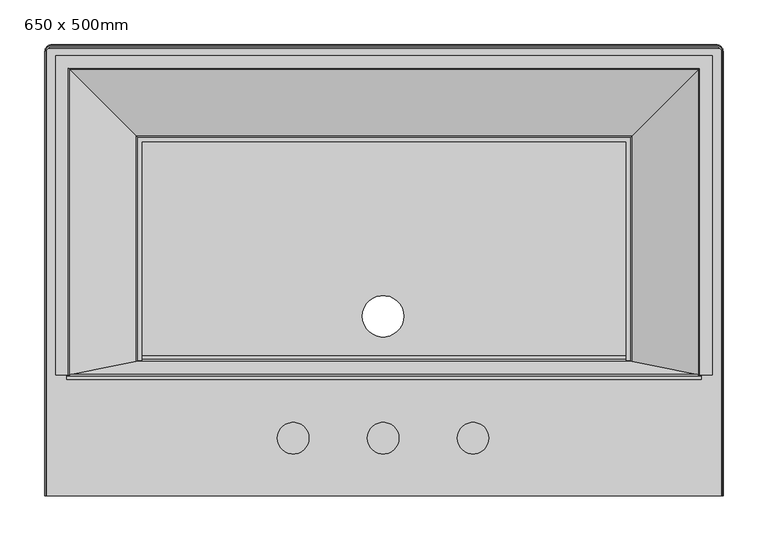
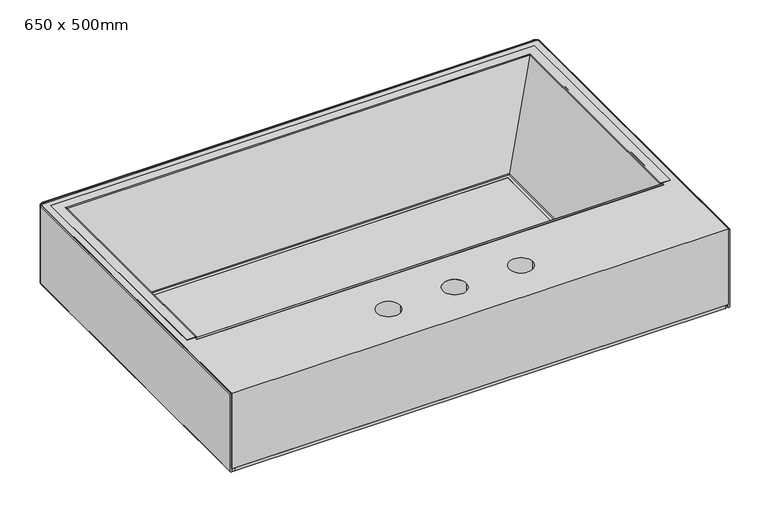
"""IFC4 building model written with IfcOpenShell, lengths in millimetres: flow terminal geometry, Umývadlo závěsné : 650 x 500mm."""

from ifc_helpers import new_model, si_unit, point, frame, frame_2d, origin, place, context, project, spatial, polyline, circle_curve, ellipse_curve, trimmed, segment, composite_curve, outline, extrude, source, transform, mapped, element, save
from ifc_brep_helpers import plane_surface, cylinder_surface, revolved_surface, advanced_brep


def flow_terminal_650_x_500mm_feced0cd(model_context):
    return source(origin(), model_context, "Body", "SolidModel", [
        advanced_brep(
        [(-238.3922513, 197.5, 870.0), (-238.3922513, 197.5, 865.0), (-226.1634933, 197.5, 865.0), (-151.1371736, 197.5, 744.95758), (-143.0390224, 197.5, 744.95758), (-143.0390224, 197.5, 750.0), (-147.2839473, 197.5, 750.0), (-148.9799451, 197.5, 750.9400041), (-222.8047502, 197.5, 869.0599959), (-224.5007481, 197.5, 870.0), (-238.3922513, 552.3610413, 870.0), (-238.3922513, 552.3610413, 865.0), (491.3298313, 552.3610413, 865.0), (491.3298313, 197.5, 865.0), (479.1010733, 197.5, 865.0), (479.1010733, 540.1322833, 865.0), (-226.1634933, 540.1322833, 865.0), (-151.1371736, 465.1059636, 744.95758), (404.0747536, 465.1059636, 744.95758), (404.0747536, 197.5, 744.95758), (395.9766024, 197.5, 744.95758), (395.9766024, 457.0078124, 744.95758), (-143.0390224, 457.0078124, 744.95758), (-143.0390224, 457.0078124, 750.0), (395.9766024, 457.0078124, 750.0), (395.9766024, 197.5, 750.0), (400.2215273, 197.5, 750.0), (400.2215273, 461.2527373, 750.0), (-147.2839473, 461.2527373, 750.0), (-148.9799451, 462.9487351, 750.9400041), (-222.8047502, 536.7735402, 869.0599959), (-224.5007481, 538.4695381, 870.0), (477.4383281, 538.4695381, 870.0), (477.4383281, 197.5, 870.0), (491.3298313, 197.5, 870.0), (491.3298313, 552.3610413, 870.0), (401.9175251, 462.9487351, 750.9400041), (475.7423302, 536.7735402, 869.0599959), (475.7423302, 197.5, 869.0599959), (401.9175251, 197.5, 750.9400041)],
        [
            (0, 1),
            (1, 2),
            (2, 3),
            (3, 4),
            (4, 5),
            (5, 6),
            (6, 7, circle_curve(frame((-147.2839473, 197.5, 752.0), z_axis=(0.0, 1.0, 0.0), x_axis=(-1.0, 0.0, 0.0)), 2.0)),
            (7, 8),
            (8, 9, circle_curve(frame((-224.5007481, 197.5, 868.0), z_axis=(0.0, -1.0, 0.0), x_axis=(-1.0, 0.0, 0.0)), 2.0)),
            (9, 0),
            (0, 10),
            (10, 11),
            (11, 1),
            (11, 12),
            (12, 13),
            (13, 14),
            (14, 15),
            (15, 16),
            (16, 2),
            (16, 17),
            (17, 3),
            (17, 18),
            (18, 19),
            (19, 20),
            (20, 21),
            (21, 22),
            (22, 4),
            (22, 23),
            (23, 5),
            (23, 24),
            (24, 25),
            (25, 26),
            (26, 27),
            (27, 28),
            (28, 6),
            (28, 29, ellipse_curve(frame((-147.2839473, 461.2527373, 752.0), z_axis=(0.7071067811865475, 0.7071067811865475, 0.0), x_axis=(-0.7071067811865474, 0.7071067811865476, 0.0)), 2.8284271, 2.0)),
            (29, 7),
            (29, 30),
            (30, 8),
            (30, 31, ellipse_curve(frame((-224.5007481, 538.4695381, 868.0), z_axis=(-0.7071067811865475, -0.7071067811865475, 0.0), x_axis=(0.7071067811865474, -0.7071067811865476, 0.0)), 2.8284271, 2.0)),
            (31, 9),
            (31, 32),
            (32, 33),
            (33, 34),
            (34, 35),
            (35, 10),
            (35, 12),
            (15, 18),
            (21, 24),
            (27, 36, ellipse_curve(frame((400.2215273, 461.2527373, 752.0), z_axis=(0.7071067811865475, -0.7071067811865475, 0.0), x_axis=(0.7071067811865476, 0.7071067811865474, 0.0)), 2.8284271, 2.0)),
            (36, 29),
            (36, 37),
            (37, 30),
            (37, 32, ellipse_curve(frame((477.4383281, 538.4695381, 868.0), z_axis=(-0.7071067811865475, 0.7071067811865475, 0.0), x_axis=(-0.7071067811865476, -0.7071067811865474, 0.0)), 2.8284271, 2.0)),
            (33, 38, circle_curve(frame((477.4383281, 197.5, 868.0), z_axis=(0.0, -1.0, 0.0), x_axis=(1.0, 0.0, 0.0)), 2.0)),
            (38, 39),
            (39, 26, circle_curve(frame((400.2215273, 197.5, 752.0), z_axis=(0.0, 1.0, 0.0), x_axis=(1.0, 0.0, 0.0)), 2.0)),
            (25, 20),
            (19, 14),
            (13, 34),
            (39, 36),
            (38, 37),
        ],
        [
            plane_surface(frame((-223.53121, 197.5, 750.0), z_axis=(0.0, -1.0, 0.0), x_axis=(0.0, 0.0, 1.0))),
            plane_surface(frame((-238.3922513, 197.5, 870.0), z_axis=(-1.0, 0.0, 0.0), x_axis=(0.0, 1.0, 0.0))),
            plane_surface(frame((-238.3922513, 197.5, 865.0), z_axis=(0.0, 0.0, -1.0), x_axis=(0.0, 1.0, 0.0))),
            plane_surface(frame((-226.1634933, 197.5, 865.0), z_axis=(-0.847998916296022, 0.0, -0.5299979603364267), x_axis=(0.0, 1.0, 0.0))),
            plane_surface(frame((-151.1371736, 197.5, 744.95758), z_axis=(0.0, 0.0, -1.0), x_axis=(0.0, 1.0, 0.0))),
            plane_surface(frame((-143.0390224, 197.5, 744.95758), z_axis=(1.0, 0.0, 0.0), x_axis=(0.0, 1.0, 0.0))),
            plane_surface(frame((-143.0390224, 197.5, 750.0), z_axis=(0.0, 0.0, 1.0), x_axis=(0.0, 1.0, 0.0))),
            revolved_surface(polyline([(-149.2839473, 463.25273728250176, 752.0), (-149.2839473, 197.5, 752.0)]), (-147.2839473, 197.5, 752.0), (0.0, 1.0, 0.0)),
            plane_surface(frame((-148.9799451, 197.5, 750.9400041), z_axis=(0.8479989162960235, 0.0, 0.529997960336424), x_axis=(0.0, 1.0, 0.0))),
            cylinder_surface(frame((-224.5007481, 197.5, 868.0), z_axis=(0.0, -1.0, 0.0), x_axis=(-1.0, 0.0, 0.0)), 2.0),
            plane_surface(frame((-224.5007481, 197.5, 870.0), z_axis=(0.0, 0.0, 1.0), x_axis=(0.0, 1.0, 0.0))),
            plane_surface(frame((-238.3922513, 552.3610413, 870.0), z_axis=(0.0, 1.0, 0.0), x_axis=(1.0, 0.0, 0.0))),
            plane_surface(frame((-226.1634933, 540.1322833, 865.0), z_axis=(0.0, 0.8479989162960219, -0.5299979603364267), x_axis=(1.0, 0.0, 0.0))),
            plane_surface(frame((-143.0390224, 457.0078124, 744.95758), z_axis=(0.0, -1.0, 0.0), x_axis=(1.0, 0.0, 0.0))),
            revolved_surface(polyline([(402.2215272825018, 463.2527373, 752.0), (-149.2839472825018, 463.2527373, 752.0)]), (-223.53121, 461.2527373, 752.0), (1.0, 0.0, 0.0)),
            plane_surface(frame((-148.9799451, 462.9487351, 750.9400041), z_axis=(0.0, -0.8479989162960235, 0.529997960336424), x_axis=(1.0, 0.0, 0.0))),
            cylinder_surface(frame((-223.53121, 538.4695381, 868.0), z_axis=(-1.0, 0.0, 0.0), x_axis=(0.0, 1.0, 0.0)), 2.0),
            plane_surface(frame((476.46879, 197.5, 750.0), z_axis=(0.0, -1.0, 0.0), x_axis=(0.0, 0.0, 1.0))),
            plane_surface(frame((491.3298313, 552.3610413, 870.0), z_axis=(1.0, 0.0, 0.0), x_axis=(0.0, -1.0, 0.0))),
            plane_surface(frame((479.1010733, 540.1322833, 865.0), z_axis=(0.8479989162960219, 0.0, -0.5299979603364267), x_axis=(0.0, -1.0, 0.0))),
            plane_surface(frame((395.9766024, 457.0078124, 744.95758), z_axis=(-1.0, 0.0, 0.0), x_axis=(0.0, -1.0, 0.0))),
            revolved_surface(polyline([(402.2215273, 197.5, 752.0), (402.2215273, 463.2527372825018, 752.0)]), (400.2215273, 537.5, 752.0), (0.0, -1.0, 0.0)),
            plane_surface(frame((401.9175251, 462.9487351, 750.9400041), z_axis=(-0.8479989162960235, 0.0, 0.529997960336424), x_axis=(0.0, -1.0, 0.0))),
            cylinder_surface(frame((477.4383281, 537.5, 868.0), z_axis=(0.0, 1.0, 0.0), x_axis=(1.0, 0.0, 0.0)), 2.0),
        ],
        [
            (0, [[1, 2, 3, 4, 5, 6, 7, 8, 9, 10]]),
            (1, [[-1, 11, 12, 13]]),
            (2, [[-2, -13, 14, 15, 16, 17, 18, 19]]),
            (3, [[-3, -19, 20, 21]]),
            (4, [[-4, -21, 22, 23, 24, 25, 26, 27]]),
            (5, [[-5, -27, 28, 29]]),
            (6, [[-6, -29, 30, 31, 32, 33, 34, 35]]),
            (7, [[-7, -35, 36, 37]]),
            (8, [[-8, -37, 38, 39]]),
            (9, [[-9, -39, 40, 41]]),
            (10, [[-10, -41, 42, 43, 44, 45, 46, -11]]),
            (11, [[-12, -46, 47, -14]]),
            (12, [[-20, -18, 48, -22]]),
            (13, [[-28, -26, 49, -30]]),
            (14, [[-36, -34, 50, 51]]),
            (15, [[-38, -51, 52, 53]]),
            (16, [[-40, -53, 54, -42]]),
            (17, [[-44, 55, 56, 57, -32, 58, -24, 59, -16, 60]]),
            (18, [[-47, -45, -60, -15]]),
            (19, [[-48, -17, -59, -23]]),
            (20, [[-49, -25, -58, -31]]),
            (21, [[-50, -33, -57, 61]]),
            (22, [[-52, -61, -56, 62]]),
            (23, [[-54, -62, -55, -43]]),
        ],
    ),
        extrude(outline(composite_curve([segment(polyline([(197.6022771, 868.2507881), (212.327107, 751.7492119)]), True, "CONTINUOUS"), segment(trimmed(circle_curve(frame_2d((214.311321, 752.0)), 2.0), [point((212.327107, 751.7492119))], [point((214.311321, 750.0))], True, "CARTESIAN"), True, "CONTINUOUS"), segment(polyline([(214.311321, 750.0), (218.1855127, 750.0), (218.1855127, 744.95758), (208.1855127, 744.95758), (192.3811913, 870.0), (195.6180631, 870.0)]), True, "CONTINUOUS"), segment(trimmed(circle_curve(frame_2d((195.6180631, 868.0)), 2.0), [point((195.6180631, 870.0))], [point((197.6022771, 868.2507881))], False, "CARTESIAN"), True, "CONTINUOUS")], self_intersect=False)), frame((-226.1634933, 0.0, 0.0), z_axis=(1.0, 0.0, 0.0), x_axis=(0.0, 1.0, 0.0)), (0.0, 0.0, 1.0), 705.2645665),
        extrude(outline(composite_curve([segment(trimmed(circle_curve(frame_2d((498.46879, 557.5)), 3.0), [point((498.46879, 560.5))], [point((501.46879, 557.5))], False, "CARTESIAN"), True, "CONTINUOUS"), segment(polyline([(501.46879, 557.5), (501.46879, 62.5), (-248.53121, 62.5), (-248.53121, 557.5)]), True, "CONTINUOUS"), segment(trimmed(circle_curve(frame_2d((-245.53121, 557.5)), 3.0), [point((-248.53121, 557.5))], [point((-245.53121, 560.5))], False, "CARTESIAN"), True, "CONTINUOUS"), segment(polyline([(-245.53121, 560.5), (498.46879, 560.5)]), True, "CONTINUOUS")], self_intersect=False), holes=[composite_curve([segment(trimmed(circle_curve(frame_2d((25.51071, 126.860641)), 17.5), [point((8.01071, 126.860641))], [point((43.01071, 126.860641))], True, "CARTESIAN"), True, "CONTINUOUS"), segment(trimmed(circle_curve(frame_2d((25.51071, 126.860641)), 17.5), [point((43.01071, 126.860641))], [point((8.01071, 126.860641))], True, "CARTESIAN"), True, "CONTINUOUS")], self_intersect=False), composite_curve([segment(trimmed(circle_curve(frame_2d((125.51071, 126.860641)), 17.5), [point((108.01071, 126.860641))], [point((143.01071, 126.860641))], True, "CARTESIAN"), True, "CONTINUOUS"), segment(trimmed(circle_curve(frame_2d((125.51071, 126.860641)), 17.5), [point((143.01071, 126.860641))], [point((108.01071, 126.860641))], True, "CARTESIAN"), True, "CONTINUOUS")], self_intersect=False), composite_curve([segment(trimmed(circle_curve(frame_2d((225.51071, 126.860641)), 17.5), [point((243.01071, 126.860641))], [point((208.01071, 126.860641))], True, "CARTESIAN"), True, "CONTINUOUS"), segment(trimmed(circle_curve(frame_2d((225.51071, 126.860641)), 17.5), [point((208.01071, 126.860641))], [point((243.01071, 126.860641))], True, "CARTESIAN"), True, "CONTINUOUS")], self_intersect=False), polyline([(-226.1634933, 537.5), (-226.1634933, 192.5), (479.1010733, 192.5), (479.1010733, 537.5), (-226.1634933, 537.5)])]), frame((0.0, 0.0, 750.0), z_axis=(0.0, 0.0, 1.0), x_axis=(1.0, 0.0, 0.0)), (0.0, 0.0, 1.0), 120.0),
        advanced_brep(
        [(-249.53121, 62.5, 870.0), (-250.53121, 62.5, 869.0), (-250.53121, 62.5, 746.0), (-249.53121, 62.5, 745.0), (-248.53121, 62.5, 745.0), (-248.53121, 62.5, 870.0), (-249.53121, 557.5, 870.0), (-250.53121, 557.5, 869.0), (-250.53121, 557.5, 746.0), (-249.53121, 557.5, 745.0), (-243.53121, 563.5, 745.0), (496.46879, 563.5, 745.0), (502.46879, 557.5, 745.0), (502.46879, 62.5, 745.0), (501.46879, 62.5, 745.0), (501.46879, 557.5, 745.0), (496.46879, 562.5, 745.0), (-243.53121, 562.5, 745.0), (-248.53121, 557.5, 745.0), (-248.53121, 557.5, 870.0), (-243.53121, 562.5, 870.0), (496.46879, 562.5, 870.0), (501.46879, 557.5, 870.0), (501.46879, 62.5, 870.0), (502.46879, 62.5, 870.0), (502.46879, 557.5, 870.0), (496.46879, 563.5, 870.0), (-243.53121, 563.5, 870.0), (-243.53121, 564.5, 869.0), (-243.53121, 564.5, 746.0), (496.46879, 564.5, 869.0), (496.46879, 564.5, 746.0), (503.46879, 557.5, 869.0), (503.46879, 557.5, 746.0), (503.46879, 62.5, 746.0), (503.46879, 62.5, 869.0)],
        [
            (0, 1, circle_curve(frame((-249.53121, 62.5, 869.0), z_axis=(0.0, -1.0, 0.0), x_axis=(-1.0, 0.0, 0.0)), 1.0)),
            (1, 2),
            (2, 3, circle_curve(frame((-249.53121, 62.5, 746.0), z_axis=(0.0, -1.0, 0.0), x_axis=(-1.0, 0.0, 0.0)), 1.0)),
            (3, 4),
            (4, 5),
            (5, 0),
            (0, 6),
            (6, 7, circle_curve(frame((-249.53121, 557.5, 869.0), z_axis=(0.0, -1.0, 0.0), x_axis=(-1.0, 0.0, 0.0)), 1.0)),
            (7, 1),
            (7, 8),
            (8, 2),
            (8, 9, circle_curve(frame((-249.53121, 557.5, 746.0), z_axis=(0.0, -1.0, 0.0), x_axis=(-1.0, 0.0, 0.0)), 1.0)),
            (9, 3),
            (9, 10, circle_curve(frame((-243.53121, 557.5, 745.0), z_axis=(0.0, 0.0, -1.0), x_axis=(-1.0, 0.0, 0.0)), 6.0)),
            (10, 11),
            (11, 12, circle_curve(frame((496.46879, 557.5, 745.0), z_axis=(0.0, 0.0, -1.0), x_axis=(0.0, 1.0, 0.0)), 6.0)),
            (12, 13),
            (13, 14),
            (14, 15),
            (15, 16, circle_curve(frame((496.46879, 557.5, 745.0), z_axis=(0.0, 0.0, 1.0), x_axis=(0.0, 1.0, 0.0)), 5.0)),
            (16, 17),
            (17, 18, circle_curve(frame((-243.53121, 557.5, 745.0), z_axis=(0.0, 0.0, 1.0), x_axis=(-1.0, 0.0, 0.0)), 5.0)),
            (18, 4),
            (18, 19),
            (19, 5),
            (19, 20, circle_curve(frame((-243.53121, 557.5, 870.0), z_axis=(0.0, 0.0, -1.0), x_axis=(-1.0, 0.0, 0.0)), 5.0)),
            (20, 21),
            (21, 22, circle_curve(frame((496.46879, 557.5, 870.0), z_axis=(0.0, 0.0, -1.0), x_axis=(0.0, 1.0, 0.0)), 5.0)),
            (22, 23),
            (23, 24),
            (24, 25),
            (25, 26, circle_curve(frame((496.46879, 557.5, 870.0), z_axis=(0.0, 0.0, 1.0), x_axis=(0.0, 1.0, 0.0)), 6.0)),
            (26, 27),
            (27, 6, circle_curve(frame((-243.53121, 557.5, 870.0), z_axis=(0.0, 0.0, 1.0), x_axis=(-1.0, 0.0, 0.0)), 6.0)),
            (28, 7, circle_curve(frame((-243.53121, 557.5, 869.0), z_axis=(0.0, 0.0, 1.0), x_axis=(-1.0, 0.0, 0.0)), 7.0)),
            (27, 28, circle_curve(frame((-243.53121, 563.5, 869.0), z_axis=(-1.0, 0.0, 0.0), x_axis=(0.0, 1.0, 0.0)), 1.0)),
            (29, 8, circle_curve(frame((-243.53121, 557.5, 746.0), z_axis=(0.0, 0.0, 1.0), x_axis=(-1.0, 0.0, 0.0)), 7.0)),
            (28, 29),
            (29, 10, circle_curve(frame((-243.53121, 563.5, 746.0), z_axis=(-1.0, 0.0, 0.0), x_axis=(0.0, 1.0, 0.0)), 1.0)),
            (17, 20),
            (26, 30, circle_curve(frame((496.46879, 563.5, 869.0), z_axis=(-1.0, 0.0, 0.0), x_axis=(0.0, 1.0, 0.0)), 1.0)),
            (30, 28),
            (30, 31),
            (31, 29),
            (31, 11, circle_curve(frame((496.46879, 563.5, 746.0), z_axis=(-1.0, 0.0, 0.0), x_axis=(0.0, 1.0, 0.0)), 1.0)),
            (16, 21),
            (32, 30, circle_curve(frame((496.46879, 557.5, 869.0), z_axis=(0.0, 0.0, 1.0), x_axis=(0.0, 1.0, 0.0)), 7.0)),
            (25, 32, circle_curve(frame((502.46879, 557.5, 869.0), z_axis=(0.0, 1.0, 0.0), x_axis=(1.0, 0.0, 0.0)), 1.0)),
            (33, 31, circle_curve(frame((496.46879, 557.5, 746.0), z_axis=(0.0, 0.0, 1.0), x_axis=(0.0, 1.0, 0.0)), 7.0)),
            (32, 33),
            (33, 12, circle_curve(frame((502.46879, 557.5, 746.0), z_axis=(0.0, 1.0, 0.0), x_axis=(1.0, 0.0, 0.0)), 1.0)),
            (15, 22),
            (23, 14),
            (13, 34, circle_curve(frame((502.46879, 62.5, 746.0), z_axis=(0.0, -1.0, 0.0), x_axis=(1.0, 0.0, 0.0)), 1.0)),
            (34, 35),
            (35, 24, circle_curve(frame((502.46879, 62.5, 869.0), z_axis=(0.0, -1.0, 0.0), x_axis=(1.0, 0.0, 0.0)), 1.0)),
            (35, 32),
            (34, 33),
        ],
        [
            plane_surface(frame((-248.53121, 62.5, 750.0), z_axis=(0.0, -1.0, 0.0), x_axis=(0.0, 0.0, 1.0))),
            cylinder_surface(frame((-249.53121, 62.5, 869.0), z_axis=(0.0, -1.0, 0.0), x_axis=(-1.0, 0.0, 0.0)), 1.0),
            plane_surface(frame((-250.53121, 62.5, 869.0), z_axis=(-1.0, 0.0, 0.0), x_axis=(0.0, 1.0, 0.0))),
            cylinder_surface(frame((-249.53121, 62.5, 746.0), z_axis=(0.0, -1.0, 0.0), x_axis=(-1.0, 0.0, 0.0)), 1.0),
            plane_surface(frame((-249.53121, 62.5, 745.0), z_axis=(0.0, 0.0, -1.0), x_axis=(0.0, 1.0, 0.0))),
            plane_surface(frame((-248.53121, 62.5, 745.0), z_axis=(1.0, 0.0, 0.0), x_axis=(0.0, 1.0, 0.0))),
            plane_surface(frame((-248.53121, 62.5, 870.0), z_axis=(0.0, 0.0, 1.0), x_axis=(0.0, 1.0, 0.0))),
            revolved_surface(trimmed(ellipse_curve(frame((-249.53121, 557.5, 869.0), z_axis=(0.0, -1.0, 0.0), x_axis=(-1.0, 0.0, 0.0)), 1.0, 1.0), [point((-249.53121, 557.5, 870.0))], [point((-250.53121, 557.5, 869.0))], True, "CARTESIAN"), (-243.53121, 557.5, 750.0), (0.0, 0.0, -1.0)),
            cylinder_surface(frame((-243.53121, 557.5, 750.0), z_axis=(0.0, 0.0, -1.0), x_axis=(-1.0, 0.0, 0.0)), 7.0),
            revolved_surface(trimmed(ellipse_curve(frame((-249.53121, 557.5, 746.0), z_axis=(0.0, -1.0, 0.0), x_axis=(-1.0, 0.0, 0.0)), 1.0, 1.0), [point((-250.53121, 557.5, 746.0))], [point((-249.53121, 557.5, 745.0))], True, "CARTESIAN"), (-243.53121, 557.5, 750.0), (0.0, 0.0, -1.0)),
            revolved_surface(polyline([(-248.53121, 557.5, 745.0), (-248.53121, 557.5, 870.0)]), (-243.53121, 557.5, 750.0), (0.0, 0.0, -1.0)),
            cylinder_surface(frame((-243.53121, 563.5, 869.0), z_axis=(-1.0, 0.0, 0.0), x_axis=(0.0, 1.0, 0.0)), 1.0),
            plane_surface(frame((-243.53121, 564.5, 869.0), z_axis=(0.0, 1.0, 0.0), x_axis=(1.0, 0.0, 0.0))),
            cylinder_surface(frame((-243.53121, 563.5, 746.0), z_axis=(-1.0, 0.0, 0.0), x_axis=(0.0, 1.0, 0.0)), 1.0),
            plane_surface(frame((-243.53121, 562.5, 745.0), z_axis=(0.0, -1.0, 0.0), x_axis=(1.0, 0.0, 0.0))),
            revolved_surface(trimmed(ellipse_curve(frame((496.46879, 563.5, 869.0), z_axis=(-1.0, 0.0, 0.0), x_axis=(0.0, 1.0, 0.0)), 1.0, 1.0), [point((496.46879, 563.5, 870.0))], [point((496.46879, 564.5, 869.0))], True, "CARTESIAN"), (496.46879, 557.5, 750.0), (0.0, 0.0, -1.0)),
            cylinder_surface(frame((496.46879, 557.5, 750.0), z_axis=(0.0, 0.0, -1.0), x_axis=(0.0, 1.0, 0.0)), 7.0),
            revolved_surface(trimmed(ellipse_curve(frame((496.46879, 563.5, 746.0), z_axis=(-1.0, 0.0, 0.0), x_axis=(0.0, 1.0, 0.0)), 1.0, 1.0), [point((496.46879, 564.5, 746.0))], [point((496.46879, 563.5, 745.0))], True, "CARTESIAN"), (496.46879, 557.5, 750.0), (0.0, 0.0, -1.0)),
            revolved_surface(polyline([(496.46879, 562.5, 745.0), (496.46879, 562.5, 870.0)]), (496.46879, 557.5, 750.0), (0.0, 0.0, -1.0)),
            plane_surface(frame((501.46879, 62.5, 750.0), z_axis=(0.0, -1.0, 0.0), x_axis=(0.0, 0.0, 1.0))),
            cylinder_surface(frame((502.46879, 557.5, 869.0), z_axis=(0.0, 1.0, 0.0), x_axis=(1.0, 0.0, 0.0)), 1.0),
            plane_surface(frame((503.46879, 557.5, 869.0), z_axis=(1.0, 0.0, 0.0), x_axis=(0.0, -1.0, 0.0))),
            cylinder_surface(frame((502.46879, 557.5, 746.0), z_axis=(0.0, 1.0, 0.0), x_axis=(1.0, 0.0, 0.0)), 1.0),
            plane_surface(frame((501.46879, 557.5, 745.0), z_axis=(-1.0, 0.0, 0.0), x_axis=(0.0, -1.0, 0.0))),
        ],
        [
            (0, [[1, 2, 3, 4, 5, 6]]),
            (1, [[-1, 7, 8, 9]]),
            (2, [[-2, -9, 10, 11]]),
            (3, [[-3, -11, 12, 13]]),
            (4, [[-4, -13, 14, 15, 16, 17, 18, 19, 20, 21, 22, 23]]),
            (5, [[-5, -23, 24, 25]]),
            (6, [[-6, -25, 26, 27, 28, 29, 30, 31, 32, 33, 34, -7]]),
            (7, [[35, -8, -34, 36]]),
            (8, [[37, -10, -35, 38]]),
            (9, [[-14, -12, -37, 39]]),
            (10, [[-26, -24, -22, 40]]),
            (11, [[-36, -33, 41, 42]]),
            (12, [[-38, -42, 43, 44]]),
            (13, [[-39, -44, 45, -15]]),
            (14, [[-40, -21, 46, -27]]),
            (15, [[47, -41, -32, 48]]),
            (16, [[49, -43, -47, 50]]),
            (17, [[-16, -45, -49, 51]]),
            (18, [[-28, -46, -20, 52]]),
            (19, [[-30, 53, -18, 54, 55, 56]]),
            (20, [[-48, -31, -56, 57]]),
            (21, [[-50, -57, -55, 58]]),
            (22, [[-51, -58, -54, -17]]),
            (23, [[-52, -19, -53, -29]]),
        ],
    ),
        extrude(outline(composite_curve([segment(trimmed(circle_curve(frame_2d((-243.53121, 557.5)), 5.0), [point((-248.53121, 557.5))], [point((-243.53121, 562.5))], False, "CARTESIAN"), True, "CONTINUOUS"), segment(polyline([(-243.53121, 562.5), (496.46879, 562.5)]), True, "CONTINUOUS"), segment(trimmed(circle_curve(frame_2d((496.46879, 557.5)), 5.0), [point((496.46879, 562.5))], [point((501.46879, 557.5))], False, "CARTESIAN"), True, "CONTINUOUS"), segment(polyline([(501.46879, 557.5), (501.46879, 67.5)]), True, "CONTINUOUS"), segment(trimmed(circle_curve(frame_2d((496.46879, 67.5)), 5.0), [point((501.46879, 67.5))], [point((496.46879, 62.5))], False, "CARTESIAN"), True, "CONTINUOUS"), segment(polyline([(496.46879, 62.5), (-243.53121, 62.5)]), True, "CONTINUOUS"), segment(trimmed(circle_curve(frame_2d((-243.53121, 67.5)), 5.0), [point((-243.53121, 62.5))], [point((-248.53121, 67.5))], False, "CARTESIAN"), True, "CONTINUOUS"), segment(polyline([(-248.53121, 67.5), (-248.53121, 557.5)]), True, "CONTINUOUS")], self_intersect=False), holes=[composite_curve([segment(trimmed(circle_curve(frame_2d((125.5105, 262.5)), 23.0), [point((148.5105, 262.5))], [point((102.5105, 262.5))], True, "CARTESIAN"), True, "CONTINUOUS"), segment(trimmed(circle_curve(frame_2d((125.5105, 262.5)), 23.0), [point((102.5105, 262.5))], [point((148.5105, 262.5))], True, "CARTESIAN"), True, "CONTINUOUS")], self_intersect=False)]), frame((0.0, 0.0, 744.95758), z_axis=(0.0, 0.0, 1.0), x_axis=(1.0, 0.0, 0.0)), (0.0, 0.0, 1.0), 5.04242),
    ])


if __name__ == "__main__":
    model = new_model("IFC4")
    model_context = context("Model", 3, world=origin())
    ifc_project = project(units=[si_unit("LENGTHUNIT", "METRE", prefix="MILLI")], contexts=[model_context])
    site = spatial("IfcSite", under=ifc_project)
    building = spatial("IfcBuilding", under=site)
    placement = place(None, origin())
    flow_terminal_650_x_500mm_shape = flow_terminal_650_x_500mm_feced0cd(model_context)
    element("IfcFlowTerminal", 1, ObjectType="Umývadlo závěsné : 650 x 500mm", at=placement, inside=building, context=model_context, shape_type="MappedRepresentation", body=[
        mapped(flow_terminal_650_x_500mm_shape, transform((0.0, 0.0, 0.0), x_axis=(1.0, 0.0, 0.0), y_axis=(0.0, 1.0, 0.0), z_axis=(0.0, 0.0, 1.0))),
    ])
    save(model, "model.ifc")
